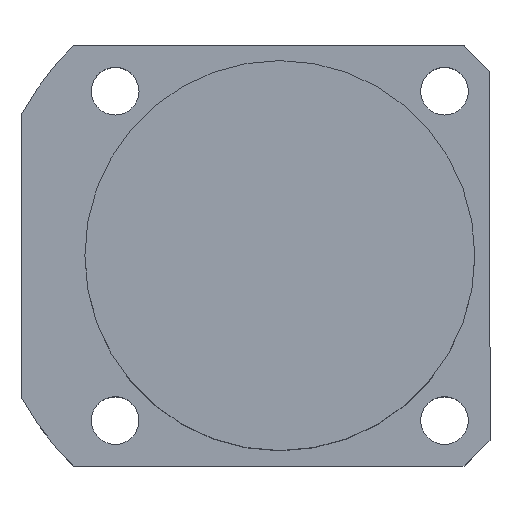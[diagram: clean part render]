
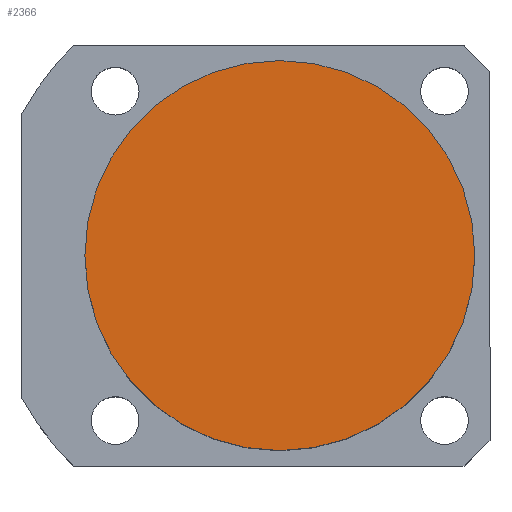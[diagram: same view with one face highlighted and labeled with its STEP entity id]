
A CAD part, top view. The second image highlights one B-rep face of the part: STEP entity #2366.
In plain terms, the highlighted planar face has unit normal (0, 0, 1).
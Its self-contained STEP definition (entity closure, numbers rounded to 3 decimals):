
#270 = PLANE ( 'NONE',  #5878 ) ;
#1231 = DIRECTION ( 'NONE',  ( 0., 0., 1. ) ) ;
#1283 = CIRCLE ( 'NONE', #7061, 45. ) ;
#1397 = DIRECTION ( 'NONE',  ( 1., 0., 0. ) ) ;
#1695 = CARTESIAN_POINT ( 'NONE',  ( 0., 0., 54.5 ) ) ;
#2076 = EDGE_CURVE ( 'NONE', #3339, #5323, #5764, .T. ) ;
#2217 = EDGE_LOOP ( 'NONE', ( #3475, #5985 ) ) ;
#2255 = DIRECTION ( 'NONE',  ( 1., 0., 0. ) ) ;
#2366 = ADVANCED_FACE ( 'NONE', ( #6805 ), #270, .T. ) ;
#3339 = VERTEX_POINT ( 'NONE', #3956 ) ;
#3475 = ORIENTED_EDGE ( 'NONE', *, *, #5334, .T. ) ;
#3481 = CARTESIAN_POINT ( 'NONE',  ( -45., 0., 54.5 ) ) ;
#3956 = CARTESIAN_POINT ( 'NONE',  ( 45., 0., 54.5 ) ) ;
#4611 = CARTESIAN_POINT ( 'NONE',  ( 0., 0., 54.5 ) ) ;
#4771 = DIRECTION ( 'NONE',  ( 0., 0., 1. ) ) ;
#4895 = AXIS2_PLACEMENT_3D ( 'NONE', #1695, #5642, #2255 ) ;
#5179 = DIRECTION ( 'NONE',  ( 1., 0., 0. ) ) ;
#5323 = VERTEX_POINT ( 'NONE', #3481 ) ;
#5334 = EDGE_CURVE ( 'NONE', #5323, #3339, #1283, .T. ) ;
#5642 = DIRECTION ( 'NONE',  ( 0., 0., 1. ) ) ;
#5764 = CIRCLE ( 'NONE', #4895, 45. ) ;
#5878 = AXIS2_PLACEMENT_3D ( 'NONE', #6421, #4771, #1397 ) ;
#5985 = ORIENTED_EDGE ( 'NONE', *, *, #2076, .T. ) ;
#6421 = CARTESIAN_POINT ( 'NONE',  ( 0., 0., 54.5 ) ) ;
#6805 = FACE_OUTER_BOUND ( 'NONE', #2217, .T. ) ;
#7061 = AXIS2_PLACEMENT_3D ( 'NONE', #4611, #1231, #5179 ) ;
